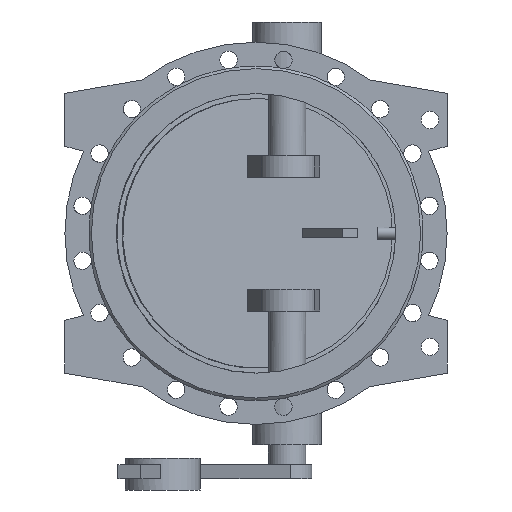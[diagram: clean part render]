
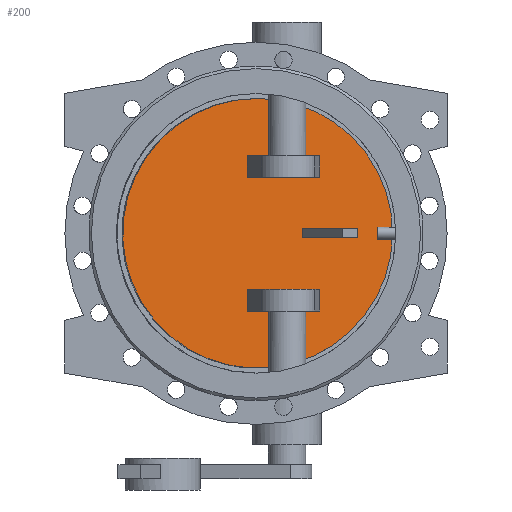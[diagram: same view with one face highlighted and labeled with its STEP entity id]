
A CAD part, front view. The second image highlights one B-rep face of the part: STEP entity #200.
In plain terms, the highlighted planar face has unit normal (0.131, -0.991, 0).
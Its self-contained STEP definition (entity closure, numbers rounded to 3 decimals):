
#200=ADVANCED_FACE('',(#1439,#1441,#1443,#1445),#1447,.T.);
#1439=FACE_BOUND('',#1440,.T.);
#1440=EDGE_LOOP('',(#2738));
#1441=FACE_BOUND('',#1442,.T.);
#1442=EDGE_LOOP('',(#2739,#2740,#2741,#2742));
#1443=FACE_BOUND('',#1444,.T.);
#1444=EDGE_LOOP('',(#2743,#2744,#2745,#2746));
#1445=FACE_BOUND('',#1446,.T.);
#1446=EDGE_LOOP('',(#2747,#2748,#2749,#2750));
#1447=PLANE('',#1448);
#1448=AXIS2_PLACEMENT_3D('',#1449,#1450,#1451);
#1449=CARTESIAN_POINT('',(-1.272,9.66,0.));
#1450=DIRECTION('',(0.131,-0.991,0.));
#1451=DIRECTION('',(0.,0.,-1.));
#2738=ORIENTED_EDGE('',*,*,#3445,.T.);
#2739=ORIENTED_EDGE('',*,*,#3529,.F.);
#2740=ORIENTED_EDGE('',*,*,#3530,.F.);
#2741=ORIENTED_EDGE('',*,*,#3531,.F.);
#2742=ORIENTED_EDGE('',*,*,#3532,.F.);
#2743=ORIENTED_EDGE('',*,*,#3533,.F.);
#2744=ORIENTED_EDGE('',*,*,#3534,.F.);
#2745=ORIENTED_EDGE('',*,*,#3535,.F.);
#2746=ORIENTED_EDGE('',*,*,#3536,.F.);
#2747=ORIENTED_EDGE('',*,*,#3537,.F.);
#2748=ORIENTED_EDGE('',*,*,#3538,.F.);
#2749=ORIENTED_EDGE('',*,*,#3539,.F.);
#2750=ORIENTED_EDGE('',*,*,#3540,.F.);
#3445=EDGE_CURVE('',#3872,#3872,#3873,.T.);
#3529=EDGE_CURVE('',#4040,#4041,#4042,.T.);
#3530=EDGE_CURVE('',#4043,#4040,#4044,.F.);
#3531=EDGE_CURVE('',#4045,#4043,#4046,.T.);
#3532=EDGE_CURVE('',#4041,#4045,#4047,.T.);
#3533=EDGE_CURVE('',#4048,#4049,#4050,.F.);
#3534=EDGE_CURVE('',#4051,#4048,#4052,.T.);
#3535=EDGE_CURVE('',#4053,#4051,#4054,.T.);
#3536=EDGE_CURVE('',#4049,#4053,#4055,.T.);
#3537=EDGE_CURVE('',#4056,#4057,#4058,.T.);
#3538=EDGE_CURVE('',#4059,#4056,#4060,.F.);
#3539=EDGE_CURVE('',#4061,#4059,#4062,.F.);
#3540=EDGE_CURVE('',#4057,#4061,#4063,.F.);
#3872=VERTEX_POINT('',#5104);
#3873=B_SPLINE_CURVE_WITH_KNOTS('',3,
(#5105,#5106,#5107,#5108,#5109,#5110,#5111,#5112,#5113,#5114,#5115,#5116,#5117,#5118,
#5119,#5120,#5121,#5122,#5123,#5124,#5125,#5126,#5127,#5128,#5129,#5130,#5131,#5132,
#5133,#5134,#5135,#5136,#5137,#5138,#5139,#5140,#5141,#5142,#5143,#5144,#5145,#5146,
#5147,#5148,#5149,#5150,#5151,#5152,#5153,#5154,#5155),
.UNSPECIFIED.,.T.,.F.,
(4,1,1,1,1,1,1,1,1,1,1,1,1,1,1,1,1,1,1,1,1,1,1,1,1,1,1,1,1,1,1,1,1,1,1,1,1,1,1,1,
1,1,1,1,1,1,1,1,4),
(0.,0.021,0.042,0.063,0.084,
0.105,0.126,0.147,0.168,0.189,
0.211,0.232,0.253,0.274,0.295,
0.316,0.337,0.358,0.379,0.4,
0.421,0.442,0.463,0.484,0.505,
0.526,0.548,0.569,0.59,0.611,
0.632,0.653,0.674,0.695,0.716,
0.737,0.758,0.779,0.8,0.821,
0.843,0.864,0.885,0.906,0.927,
0.948,0.969,0.986,1.),
.UNSPECIFIED.);
#4040=VERTEX_POINT('',#7230);
#4041=VERTEX_POINT('',#7231);
#4042=LINE('',#7232,#7233);
#4043=VERTEX_POINT('',#7235);
#4044=LINE('',#7236,#7237);
#4045=VERTEX_POINT('',#7239);
#4046=LINE('',#7240,#7241);
#4047=LINE('',#7243,#7244);
#4048=VERTEX_POINT('',#7246);
#4049=VERTEX_POINT('',#7247);
#4050=LINE('',#7248,#7249);
#4051=VERTEX_POINT('',#7251);
#4052=LINE('',#7252,#7253);
#4053=VERTEX_POINT('',#7255);
#4054=LINE('',#7256,#7257);
#4055=LINE('',#7259,#7260);
#4056=VERTEX_POINT('',#7262);
#4057=VERTEX_POINT('',#7263);
#4058=LINE('',#7264,#7265);
#4059=VERTEX_POINT('',#7267);
#4060=LINE('',#7268,#7269);
#4061=VERTEX_POINT('',#7271);
#4062=LINE('',#7272,#7273);
#4063=LINE('',#7275,#7276);
#5104=CARTESIAN_POINT('',(2.611,10.171,217.));
#5105=CARTESIAN_POINT('',(2.611,10.171,217.));
#5106=CARTESIAN_POINT('',(-6.922,8.916,217.));
#5107=CARTESIAN_POINT('',(-26.011,6.403,215.741));
#5108=CARTESIAN_POINT('',(-54.183,2.694,210.097));
#5109=CARTESIAN_POINT('',(-81.405,-0.89,200.775));
#5110=CARTESIAN_POINT('',(-107.176,-4.283,187.934));
#5111=CARTESIAN_POINT('',(-131.024,-7.422,171.808));
#5112=CARTESIAN_POINT('',(-152.536,-10.254,152.674));
#5113=CARTESIAN_POINT('',(-171.335,-12.729,130.87));
#5114=CARTESIAN_POINT('',(-187.091,-14.804,106.775));
#5115=CARTESIAN_POINT('',(-199.529,-16.441,80.811));
#5116=CARTESIAN_POINT('',(-208.43,-17.613,53.432));
#5117=CARTESIAN_POINT('',(-213.638,-18.299,25.117));
#5118=CARTESIAN_POINT('',(-215.062,-18.486,-3.636));
#5119=CARTESIAN_POINT('',(-212.678,-18.172,-32.326));
#5120=CARTESIAN_POINT('',(-206.527,-17.362,-60.448));
#5121=CARTESIAN_POINT('',(-196.717,-16.071,-87.512));
#5122=CARTESIAN_POINT('',(-183.421,-14.32,-113.044));
#5123=CARTESIAN_POINT('',(-166.872,-12.142,-136.597));
#5124=CARTESIAN_POINT('',(-147.358,-9.573,-157.76));
#5125=CARTESIAN_POINT('',(-125.223,-6.659,-176.163));
#5126=CARTESIAN_POINT('',(-100.852,-3.45,-191.486));
#5127=CARTESIAN_POINT('',(-74.672,-0.003,-203.46));
#5128=CARTESIAN_POINT('',(-47.14,3.621,-211.875));
#5129=CARTESIAN_POINT('',(-18.738,7.361,-216.585));
#5130=CARTESIAN_POINT('',(10.038,11.149,-217.508));
#5131=CARTESIAN_POINT('',(38.685,14.92,-214.626));
#5132=CARTESIAN_POINT('',(66.7,18.609,-207.99));
#5133=CARTESIAN_POINT('',(93.595,22.149,-197.716));
#5134=CARTESIAN_POINT('',(118.9,25.481,-183.984));
#5135=CARTESIAN_POINT('',(142.17,28.544,-167.033));
#5136=CARTESIAN_POINT('',(163.,31.287,-147.16));
#5137=CARTESIAN_POINT('',(181.025,33.66,-124.712));
#5138=CARTESIAN_POINT('',(195.93,35.622,-100.08));
#5139=CARTESIAN_POINT('',(207.452,37.139,-73.697));
#5140=CARTESIAN_POINT('',(215.39,38.184,-46.024));
#5141=CARTESIAN_POINT('',(219.605,38.739,-17.545));
#5142=CARTESIAN_POINT('',(220.023,38.794,11.241));
#5143=CARTESIAN_POINT('',(216.637,38.348,39.829));
#5144=CARTESIAN_POINT('',(209.506,37.409,67.719));
#5145=CARTESIAN_POINT('',(198.757,35.994,94.423));
#5146=CARTESIAN_POINT('',(184.576,34.127,119.474));
#5147=CARTESIAN_POINT('',(167.214,31.842,142.434));
#5148=CARTESIAN_POINT('',(146.972,29.177,162.904));
#5149=CARTESIAN_POINT('',(124.212,26.18,180.518));
#5150=CARTESIAN_POINT('',(99.359,22.908,194.959));
#5151=CARTESIAN_POINT('',(72.772,19.408,206.023));
#5152=CARTESIAN_POINT('',(46.552,15.956,213.053));
#5153=CARTESIAN_POINT('',(22.979,12.853,216.391));
#5154=CARTESIAN_POINT('',(8.836,10.991,217.));
#5155=CARTESIAN_POINT('',(2.611,10.171,217.));
#7230=CARTESIAN_POINT('',(149.358,29.491,-7.5));
#7231=CARTESIAN_POINT('',(149.358,29.491,7.5));
#7232=CARTESIAN_POINT('',(149.358,29.491,-7.5));
#7233=VECTOR('',#7234,1.);
#7234=DIRECTION('',(0.,0.,1.));
#7235=CARTESIAN_POINT('',(75.,19.701,-7.5));
#7236=CARTESIAN_POINT('',(149.358,29.491,-7.5));
#7237=VECTOR('',#7238,1.);
#7238=DIRECTION('',(-0.991,-0.131,0.));
#7239=CARTESIAN_POINT('',(75.,19.701,7.5));
#7240=CARTESIAN_POINT('',(75.,19.701,7.5));
#7241=VECTOR('',#7242,1.);
#7242=DIRECTION('',(0.,0.,-1.));
#7243=CARTESIAN_POINT('',(149.358,29.491,7.5));
#7244=VECTOR('',#7245,1.);
#7245=DIRECTION('',(-0.991,-0.131,0.));
#7246=CARTESIAN_POINT('',(-14.418,7.929,-125.));
#7247=CARTESIAN_POINT('',(102.407,23.31,-125.));
#7248=CARTESIAN_POINT('',(102.407,23.31,-125.));
#7249=VECTOR('',#7250,1.);
#7250=DIRECTION('',(-0.991,-0.131,0.));
#7251=CARTESIAN_POINT('',(-14.418,7.929,-90.));
#7252=CARTESIAN_POINT('',(-14.418,7.929,-90.));
#7253=VECTOR('',#7254,1.);
#7254=DIRECTION('',(0.,0.,-1.));
#7255=CARTESIAN_POINT('',(102.407,23.31,-90.));
#7256=CARTESIAN_POINT('',(102.407,23.31,-90.));
#7257=VECTOR('',#7258,1.);
#7258=DIRECTION('',(-0.991,-0.131,0.));
#7259=CARTESIAN_POINT('',(102.407,23.31,-125.));
#7260=VECTOR('',#7261,1.);
#7261=DIRECTION('',(0.,0.,1.));
#7262=CARTESIAN_POINT('',(102.407,23.31,125.));
#7263=CARTESIAN_POINT('',(-14.418,7.929,125.));
#7264=CARTESIAN_POINT('',(102.407,23.31,125.));
#7265=VECTOR('',#7266,1.);
#7266=DIRECTION('',(-0.991,-0.131,0.));
#7267=CARTESIAN_POINT('',(102.407,23.31,90.));
#7268=CARTESIAN_POINT('',(102.407,23.31,125.));
#7269=VECTOR('',#7270,1.);
#7270=DIRECTION('',(0.,0.,-1.));
#7271=CARTESIAN_POINT('',(-14.418,7.929,90.));
#7272=CARTESIAN_POINT('',(102.407,23.31,90.));
#7273=VECTOR('',#7274,1.);
#7274=DIRECTION('',(-0.991,-0.131,0.));
#7275=CARTESIAN_POINT('',(-14.418,7.929,90.));
#7276=VECTOR('',#7277,1.);
#7277=DIRECTION('',(0.,0.,1.));
